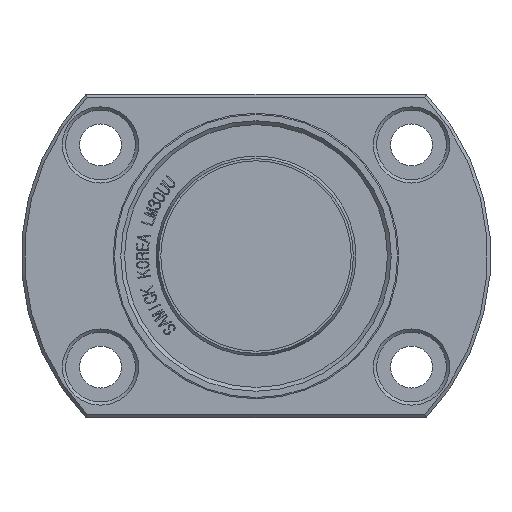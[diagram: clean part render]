
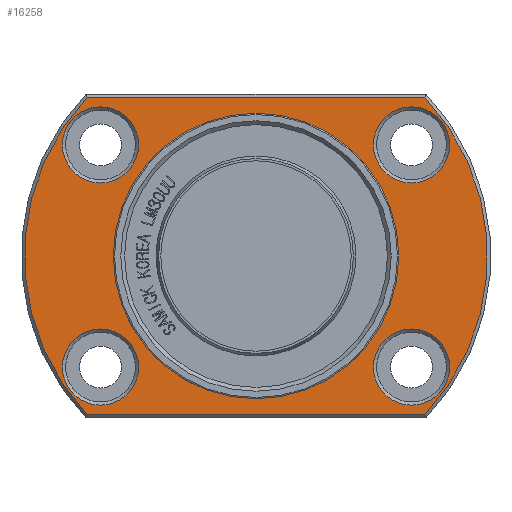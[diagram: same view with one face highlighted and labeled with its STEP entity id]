
A CAD part, front view. The second image highlights one B-rep face of the part: STEP entity #16258.
In plain terms, the highlighted planar face has unit normal (0, -1, 0).
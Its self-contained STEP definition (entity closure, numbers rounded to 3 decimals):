
#2703=FACE_BOUND('',#3875,.T.);
#2704=FACE_BOUND('',#3876,.T.);
#2705=FACE_BOUND('',#3877,.T.);
#2706=FACE_BOUND('',#3878,.T.);
#2707=FACE_BOUND('',#3879,.T.);
#2767=PLANE('',#17159);
#2996=FACE_OUTER_BOUND('',#3874,.T.);
#3874=EDGE_LOOP('',(#11310,#11311,#11312,#11313));
#3875=EDGE_LOOP('',(#11314));
#3876=EDGE_LOOP('',(#11315));
#3877=EDGE_LOOP('',(#11316,#11317));
#3878=EDGE_LOOP('',(#11318));
#3879=EDGE_LOOP('',(#11319));
#4816=LINE('',#19347,#5962);
#4817=LINE('',#19351,#5963);
#5962=VECTOR('',#17512,10.);
#5963=VECTOR('',#17515,10.);
#7107=CIRCLE('',#17156,6.);
#7110=CIRCLE('',#17160,36.5);
#7111=CIRCLE('',#17161,36.5);
#7112=CIRCLE('',#17162,6.);
#7113=CIRCLE('',#17163,6.);
#7114=CIRCLE('',#17164,22.5);
#7115=CIRCLE('',#17165,22.5);
#7116=CIRCLE('',#17166,6.);
#7189=VERTEX_POINT('',#19337);
#7192=VERTEX_POINT('',#19345);
#7193=VERTEX_POINT('',#19346);
#7194=VERTEX_POINT('',#19348);
#7195=VERTEX_POINT('',#19350);
#7196=VERTEX_POINT('',#19353);
#7197=VERTEX_POINT('',#19355);
#7198=VERTEX_POINT('',#19357);
#7199=VERTEX_POINT('',#19358);
#7200=VERTEX_POINT('',#19361);
#8837=EDGE_CURVE('',#7189,#7189,#7107,.T.);
#8841=EDGE_CURVE('',#7192,#7193,#4816,.T.);
#8842=EDGE_CURVE('',#7192,#7194,#7110,.T.);
#8843=EDGE_CURVE('',#7195,#7194,#4817,.T.);
#8844=EDGE_CURVE('',#7195,#7193,#7111,.T.);
#8845=EDGE_CURVE('',#7196,#7196,#7112,.T.);
#8846=EDGE_CURVE('',#7197,#7197,#7113,.T.);
#8847=EDGE_CURVE('',#7198,#7199,#7114,.T.);
#8848=EDGE_CURVE('',#7199,#7198,#7115,.T.);
#8849=EDGE_CURVE('',#7200,#7200,#7116,.T.);
#11310=ORIENTED_EDGE('',*,*,#8841,.F.);
#11311=ORIENTED_EDGE('',*,*,#8842,.T.);
#11312=ORIENTED_EDGE('',*,*,#8843,.F.);
#11313=ORIENTED_EDGE('',*,*,#8844,.T.);
#11314=ORIENTED_EDGE('',*,*,#8845,.F.);
#11315=ORIENTED_EDGE('',*,*,#8846,.F.);
#11316=ORIENTED_EDGE('',*,*,#8847,.F.);
#11317=ORIENTED_EDGE('',*,*,#8848,.F.);
#11318=ORIENTED_EDGE('',*,*,#8849,.F.);
#11319=ORIENTED_EDGE('',*,*,#8837,.F.);
#16258=ADVANCED_FACE('',(#2996,#2703,#2704,#2705,#2706,#2707),#2767,.T.);
#17156=AXIS2_PLACEMENT_3D('',#19338,#17503,#17504);
#17159=AXIS2_PLACEMENT_3D('',#19344,#17510,#17511);
#17160=AXIS2_PLACEMENT_3D('',#19349,#17513,#17514);
#17161=AXIS2_PLACEMENT_3D('',#19352,#17516,#17517);
#17162=AXIS2_PLACEMENT_3D('',#19354,#17518,#17519);
#17163=AXIS2_PLACEMENT_3D('',#19356,#17520,#17521);
#17164=AXIS2_PLACEMENT_3D('',#19359,#17522,#17523);
#17165=AXIS2_PLACEMENT_3D('',#19360,#17524,#17525);
#17166=AXIS2_PLACEMENT_3D('',#19362,#17526,#17527);
#17503=DIRECTION('center_axis',(0.,-1.,0.));
#17504=DIRECTION('ref_axis',(-1.,0.,0.));
#17510=DIRECTION('center_axis',(0.,-1.,0.));
#17511=DIRECTION('ref_axis',(0.,0.,-1.));
#17512=DIRECTION('',(-1.,0.,0.));
#17513=DIRECTION('center_axis',(0.,-1.,0.));
#17514=DIRECTION('ref_axis',(1.,0.,0.));
#17515=DIRECTION('',(1.,0.,0.));
#17516=DIRECTION('center_axis',(0.,-1.,0.));
#17517=DIRECTION('ref_axis',(1.,0.,0.));
#17518=DIRECTION('center_axis',(0.,-1.,0.));
#17519=DIRECTION('ref_axis',(-1.,0.,0.));
#17520=DIRECTION('center_axis',(0.,-1.,0.));
#17521=DIRECTION('ref_axis',(-1.,0.,0.));
#17522=DIRECTION('center_axis',(0.,-1.,0.));
#17523=DIRECTION('ref_axis',(1.,0.,0.));
#17524=DIRECTION('center_axis',(0.,-1.,0.));
#17525=DIRECTION('ref_axis',(1.,0.,0.));
#17526=DIRECTION('center_axis',(0.,-1.,0.));
#17527=DIRECTION('ref_axis',(-1.,0.,0.));
#19337=CARTESIAN_POINT('',(-18.5,-32.,-17.5));
#19338=CARTESIAN_POINT('Origin',(-24.5,-32.,-17.5));
#19344=CARTESIAN_POINT('Origin',(29.5,-32.,0.));
#19345=CARTESIAN_POINT('',(26.594,-32.,-25.));
#19346=CARTESIAN_POINT('',(-26.594,-32.,-25.));
#19347=CARTESIAN_POINT('',(34.75,-32.,-25.));
#19348=CARTESIAN_POINT('',(26.594,-32.,25.));
#19349=CARTESIAN_POINT('Origin',(0.,-32.,0.));
#19350=CARTESIAN_POINT('',(-26.594,-32.,25.));
#19351=CARTESIAN_POINT('',(-5.25,-32.,25.));
#19352=CARTESIAN_POINT('Origin',(0.,-32.,0.));
#19353=CARTESIAN_POINT('',(30.5,-32.,-17.5));
#19354=CARTESIAN_POINT('Origin',(24.5,-32.,-17.5));
#19355=CARTESIAN_POINT('',(-18.5,-32.,17.5));
#19356=CARTESIAN_POINT('Origin',(-24.5,-32.,17.5));
#19357=CARTESIAN_POINT('',(22.5,-32.,0.));
#19358=CARTESIAN_POINT('',(-22.5,-32.,0.));
#19359=CARTESIAN_POINT('Origin',(0.,-32.,0.));
#19360=CARTESIAN_POINT('Origin',(0.,-32.,0.));
#19361=CARTESIAN_POINT('',(30.5,-32.,17.5));
#19362=CARTESIAN_POINT('Origin',(24.5,-32.,17.5));
